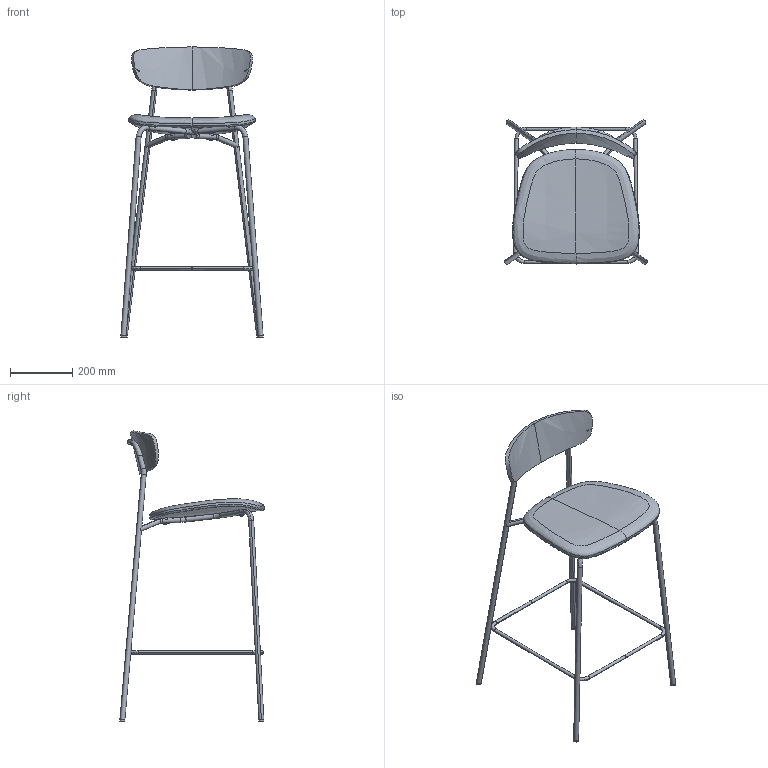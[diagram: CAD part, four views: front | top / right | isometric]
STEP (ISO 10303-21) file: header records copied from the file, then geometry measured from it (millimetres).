
FILE_DESCRIPTION(/* description */ (''),/* implementation_level */ '2;1');
FILE_NAME(/* name */ 'Trivi 128,H680',/* time_stamp */ '2022-01-20T11:28:33+01:00',/* author */ (''),/* organization */ (''),/* preprocessor_version */ 'ST-DEVELOPER v16.5',/* originating_system */ 'Rhino 7.14',/* authorisation */ '');
FILE_SCHEMA (('CONFIG_CONTROL_DESIGN'));
Length unit declared in the file: millimetre
Products named in the file (1): Document
Bounding box: 456.79 x 463.34 x 930.57 mm (x, y, z)
Volume: 3884846.6 mm3; surface area: 656685.6 mm2
Topology: 12 solids, 22 shells, 194 faces, 417 edges, 254 vertices
Faces by surface type: bspline 68, cylinder 64, plane 62
Entity records: 10196 total; most frequent: CARTESIAN_POINT 7440, ORIENTED_EDGE 792, EDGE_CURVE 414, VERTEX_POINT 248, EDGE_LOOP 196, ADVANCED_FACE 194, FACE_OUTER_BOUND 194, B_SPLINE_CURVE_WITH_KNOTS 183
